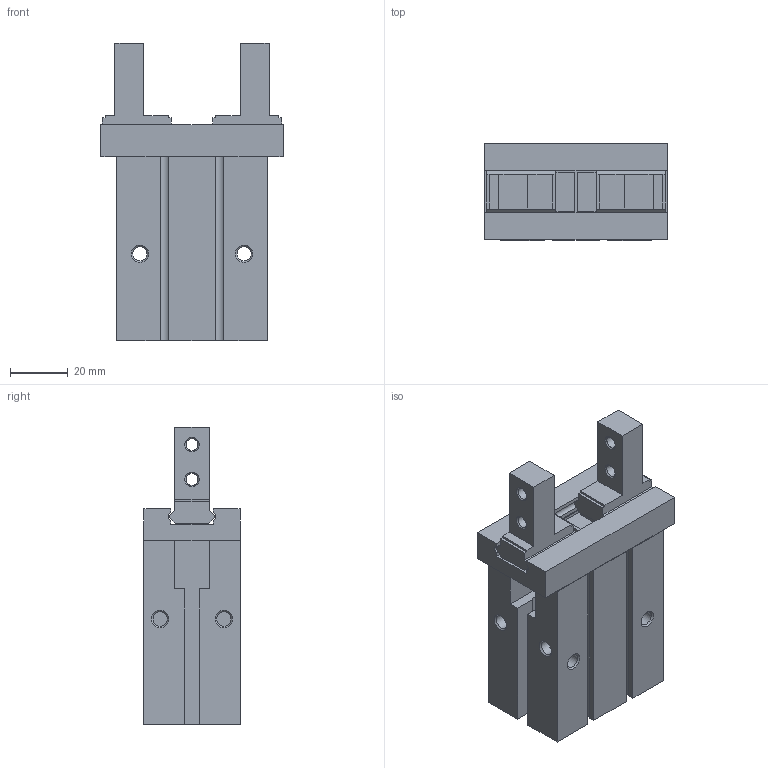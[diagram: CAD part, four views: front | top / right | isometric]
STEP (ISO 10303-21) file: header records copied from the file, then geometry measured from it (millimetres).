
FILE_DESCRIPTION( ( 'STEP AP214' ), '1' );
FILE_NAME( 'F:/CRG-3D-PAN-XU/CRG-chan pin kai fa cun dang - xu/协助/样品整理/平行夹/MHZ2-25S_33.3_0_.stp', '2023-03-07T10:05:58', ( '' ), ( '' ), ' ', 'PARTsolutions', ' ' );
FILE_SCHEMA( ( 'AUTOMOTIVE_DESIGN { 1 0 10303 214 1 1 1 1 }' ) );
Length unit declared in the file: millimetre
Products named in the file (3): MHZ2-25S(33.3_0); _MHZ2-25S_Body(0); _MHZ2-25S_Finger(0)
Assembly tree (3 placements, depth 2):
  MHZ2-25S(33.3_0)
    _MHZ2-25S_Body(0)
    _MHZ2-25S_Finger(0)  x2
Bounding box: 63 x 33.6 x 102.7 mm (x, y, z)
Volume: 120162.2 mm3; surface area: 30892.9 mm2
Topology: 3 solids, 3 shells, 199 faces, 523 edges, 339 vertices
Faces by surface type: plane 149, cylinder 29, cone 21
Full cylindrical faces by diameter (mm): 4 x1, 4.134 x5, 4.917 x8, 5.1 x4, 26 x1
Entity records: 6040 total; most frequent: CARTESIAN_POINT 813, DIRECTION 790, ORIENTED_EDGE 762, EDGE_CURVE 381, LINE 302, VECTOR 302, VERTEX_POINT 267, AXIS2_PLACEMENT_3D 244
